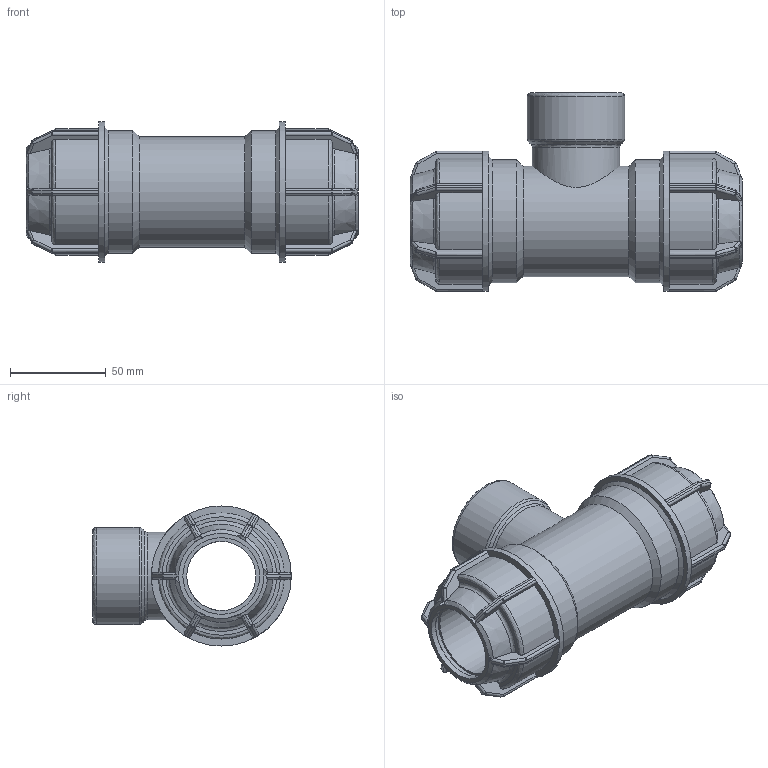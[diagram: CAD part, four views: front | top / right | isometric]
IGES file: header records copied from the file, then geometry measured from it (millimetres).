
Global section: file name: 141400040013.ipt; native system: Autodesk Inventor 2015; preprocessor: unknown; author: KIM; date: 20180416.111610; units: millimetre
Bounding box: 173 x 103.5 x 73 mm (x, y, z)
Volume: 324570.5 mm3; surface area: 75914.4 mm2
Topology: 1 solids, 1 shells, 412 faces, 991 edges, 581 vertices
Faces by surface type: plane 194, cylinder 115, sphere 48, revolution 38, cone 17
Full cylindrical faces by diameter (mm): 45.574 x1, 50.638 x1, 57.6 x1, 64 x2, 73 x2
